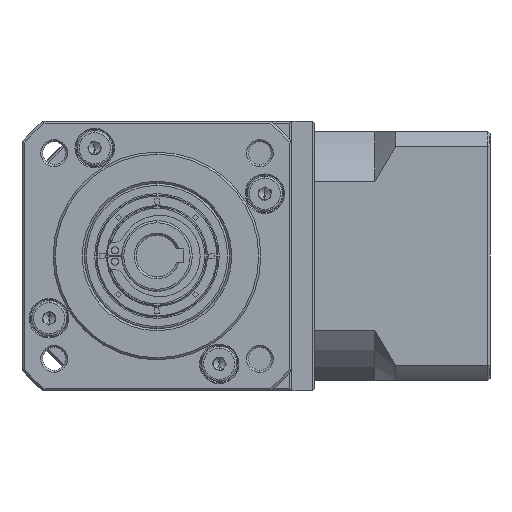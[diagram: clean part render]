
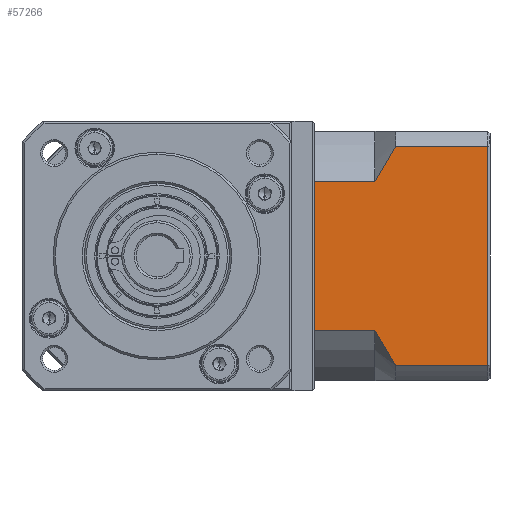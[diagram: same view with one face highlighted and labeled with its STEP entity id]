
A CAD part, left-side view. The second image highlights one B-rep face of the part: STEP entity #57266.
In plain terms, the highlighted planar face has unit normal (-1, 0, 0).
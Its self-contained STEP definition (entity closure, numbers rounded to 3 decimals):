
#862 = ORIENTED_EDGE ( 'NONE', *, *, #76676, .F. ) ;
#2822 = ORIENTED_EDGE ( 'NONE', *, *, #89314, .T. ) ;
#4967 = ORIENTED_EDGE ( 'NONE', *, *, #118634, .F. ) ;
#5079 = EDGE_CURVE ( 'NONE', #76574, #117625, #101383, .T. ) ;
#10733 = CARTESIAN_POINT ( 'NONE',  ( -27.429, -93.934, -147.553 ) ) ;
#11473 = LINE ( 'NONE', #120250, #77433 ) ;
#12012 = CARTESIAN_POINT ( 'NONE',  ( -27.429, -69.458, -141.268 ) ) ;
#21538 = CARTESIAN_POINT ( 'NONE',  ( -27.429, -69.461, -93.834 ) ) ;
#22143 = CARTESIAN_POINT ( 'NONE',  ( -27.429, -66.234, -91.095 ) ) ;
#23165 = DIRECTION ( 'NONE',  ( 0., 1., 0. ) ) ;
#24415 = CARTESIAN_POINT ( 'NONE',  ( -27.429, -71.234, -144.01 ) ) ;
#26121 = CARTESIAN_POINT ( 'NONE',  ( -27.429, -66.234, -135.581 ) ) ;
#28364 = EDGE_CURVE ( 'NONE', #97551, #35583, #111822, .T. ) ;
#30583 = CARTESIAN_POINT ( 'NONE',  ( -27.429, -51.734, -99.525 ) ) ;
#31719 = EDGE_CURVE ( 'NONE', #78954, #117625, #103414, .T. ) ;
#32812 = CARTESIAN_POINT ( 'NONE',  ( -27.429, -66.234, -99.525 ) ) ;
#33022 = DIRECTION ( 'NONE',  ( 0., 1., 0. ) ) ;
#33441 = EDGE_LOOP ( 'NONE', ( #63507, #75212, #4967, #2822, #42367, #88805, #862, #81838 ) ) ;
#33976 = CARTESIAN_POINT ( 'NONE',  ( -27.429, -66.982, -98.073 ) ) ;
#34586 = DIRECTION ( 'NONE',  ( 0., -1., 0. ) ) ;
#35583 = VERTEX_POINT ( 'NONE', #109691 ) ;
#36323 = CARTESIAN_POINT ( 'NONE',  ( -27.429, -67.784, -138.463 ) ) ;
#41735 = VECTOR ( 'NONE', #112917, 1000. ) ;
#42367 = ORIENTED_EDGE ( 'NONE', *, *, #28364, .F. ) ;
#44358 = CARTESIAN_POINT ( 'NONE',  ( -27.429, -51.734, -147.553 ) ) ;
#45689 = LINE ( 'NONE', #26121, #41735 ) ;
#45847 = AXIS2_PLACEMENT_3D ( 'NONE', #10733, #97513, #23165 ) ;
#46018 = DIRECTION ( 'NONE',  ( 0., 0., 1. ) ) ;
#48170 = LINE ( 'NONE', #44358, #143218 ) ;
#56850 = DIRECTION ( 'NONE',  ( 0., 0., -1. ) ) ;
#57266 = ADVANCED_FACE ( 'NONE', ( #79174 ), #121789, .F. ) ;
#57409 = CARTESIAN_POINT ( 'NONE',  ( -27.429, -71.234, -144.01 ) ) ;
#58394 = CARTESIAN_POINT ( 'NONE',  ( -27.429, -71.234, -91.095 ) ) ;
#61345 = CARTESIAN_POINT ( 'NONE',  ( -27.429, -66.984, -137.037 ) ) ;
#63507 = ORIENTED_EDGE ( 'NONE', *, *, #31719, .F. ) ;
#70868 = CARTESIAN_POINT ( 'NONE',  ( -27.429, -70.334, -92.455 ) ) ;
#75212 = ORIENTED_EDGE ( 'NONE', *, *, #111733, .T. ) ;
#76574 = VERTEX_POINT ( 'NONE', #86896 ) ;
#76676 = EDGE_CURVE ( 'NONE', #76574, #80742, #45689, .T. ) ;
#77433 = VECTOR ( 'NONE', #46018, 1000. ) ;
#78882 = VECTOR ( 'NONE', #94711, 1000. ) ;
#78954 = VERTEX_POINT ( 'NONE', #91545 ) ;
#79174 = FACE_OUTER_BOUND ( 'NONE', #33441, .T. ) ;
#80742 = VERTEX_POINT ( 'NONE', #126840 ) ;
#81838 = ORIENTED_EDGE ( 'NONE', *, *, #5079, .T. ) ;
#82178 = VECTOR ( 'NONE', #33022, 1000. ) ;
#84385 = LINE ( 'NONE', #22143, #109557 ) ;
#86247 = CARTESIAN_POINT ( 'NONE',  ( -27.429, -66.234, -135.581 ) ) ;
#86896 = CARTESIAN_POINT ( 'NONE',  ( -27.429, -66.234, -135.581 ) ) ;
#88805 = ORIENTED_EDGE ( 'NONE', *, *, #154723, .T. ) ;
#89314 = EDGE_CURVE ( 'NONE', #112286, #35583, #111387, .T. ) ;
#91545 = CARTESIAN_POINT ( 'NONE',  ( -27.429, -93.434, -144.01 ) ) ;
#93357 = VERTEX_POINT ( 'NONE', #119132 ) ;
#94711 = DIRECTION ( 'NONE',  ( 0., -1., 0. ) ) ;
#97513 = DIRECTION ( 'NONE',  ( 1., 0., 0. ) ) ;
#97551 = VERTEX_POINT ( 'NONE', #30583 ) ;
#98776 = CARTESIAN_POINT ( 'NONE',  ( -27.429, -70.332, -142.648 ) ) ;
#101383 = B_SPLINE_CURVE_WITH_KNOTS ( 'NONE', 3,
 ( #86247, #61345, #36323, #12012, #98776, #24415 ),
 .UNSPECIFIED., .F., .F.,
 ( 4, 2, 4 ),
 ( 0.1, 0.104, 0.109 ),
 .UNSPECIFIED. ) ;
#103414 = LINE ( 'NONE', #119715, #82178 ) ;
#108256 = CARTESIAN_POINT ( 'NONE',  ( -27.429, -67.785, -96.642 ) ) ;
#109557 = VECTOR ( 'NONE', #34586, 1000. ) ;
#109691 = CARTESIAN_POINT ( 'NONE',  ( -27.429, -66.234, -99.525 ) ) ;
#111387 = B_SPLINE_CURVE_WITH_KNOTS ( 'NONE', 3,
 ( #58394, #70868, #21538, #108256, #33976, #120665 ),
 .UNSPECIFIED., .F., .F.,
 ( 4, 2, 4 ),
 ( 0.052, 0.057, 0.062 ),
 .UNSPECIFIED. ) ;
#111733 = EDGE_CURVE ( 'NONE', #78954, #93357, #11473, .T. ) ;
#111822 = LINE ( 'NONE', #32812, #78882 ) ;
#112286 = VERTEX_POINT ( 'NONE', #125429 ) ;
#112917 = DIRECTION ( 'NONE',  ( 0., 1., 0. ) ) ;
#117625 = VERTEX_POINT ( 'NONE', #57409 ) ;
#118634 = EDGE_CURVE ( 'NONE', #112286, #93357, #84385, .T. ) ;
#119132 = CARTESIAN_POINT ( 'NONE',  ( -27.429, -93.434, -91.095 ) ) ;
#119715 = CARTESIAN_POINT ( 'NONE',  ( -27.429, -66.234, -144.01 ) ) ;
#120250 = CARTESIAN_POINT ( 'NONE',  ( -27.429, -93.434, -147.553 ) ) ;
#120665 = CARTESIAN_POINT ( 'NONE',  ( -27.429, -66.234, -99.525 ) ) ;
#121789 = PLANE ( 'NONE',  #45847 ) ;
#125429 = CARTESIAN_POINT ( 'NONE',  ( -27.429, -71.234, -91.095 ) ) ;
#126840 = CARTESIAN_POINT ( 'NONE',  ( -27.429, -51.734, -135.581 ) ) ;
#143218 = VECTOR ( 'NONE', #56850, 1000. ) ;
#154723 = EDGE_CURVE ( 'NONE', #97551, #80742, #48170, .T. ) ;
